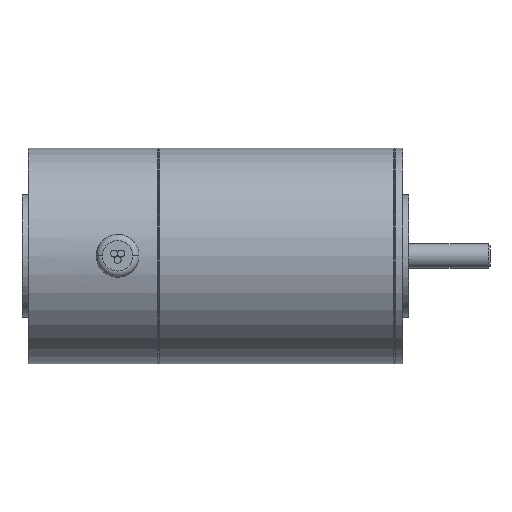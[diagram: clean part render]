
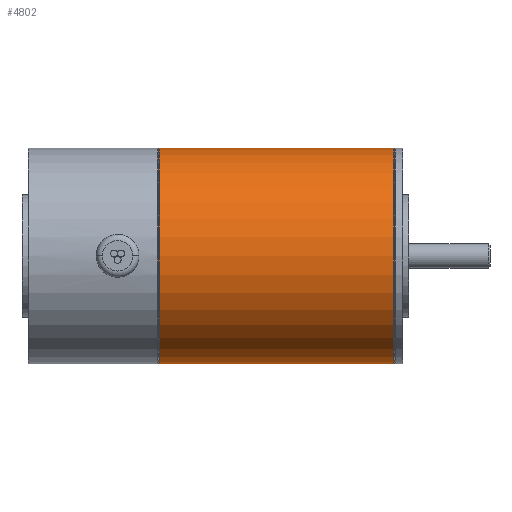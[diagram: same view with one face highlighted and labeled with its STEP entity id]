
A CAD part, top view. The second image highlights one B-rep face of the part: STEP entity #4802.
In plain terms, the highlighted cylindrical face has radius 26.5 mm (diameter 53 mm), a partial arc.
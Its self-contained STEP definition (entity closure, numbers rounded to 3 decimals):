
#4766 = VERTEX_POINT ( 'NONE', #5212 ) ;
#4798 = EDGE_CURVE ( 'NONE', #4766, #4799, #5261, .T. ) ;
#4799 = VERTEX_POINT ( 'NONE', #5256 ) ;
#4802 = ADVANCED_FACE ( 'NONE', ( #5186 ), #5244, .T. ) ;
#4803 = EDGE_LOOP ( 'NONE', ( #4804, #4808, #4816, #4817 ) ) ;
#4804 = ORIENTED_EDGE ( 'NONE', *, *, #4805, .T. ) ;
#4805 = EDGE_CURVE ( 'NONE', #4806, #4807, #5340, .T. ) ;
#4806 = VERTEX_POINT ( 'NONE', #5336 ) ;
#4807 = VERTEX_POINT ( 'NONE', #5335 ) ;
#4808 = ORIENTED_EDGE ( 'NONE', *, *, #4815, .T. ) ;
#4815 = EDGE_CURVE ( 'NONE', #4807, #4799, #5359, .T. ) ;
#4816 = ORIENTED_EDGE ( 'NONE', *, *, #4798, .F. ) ;
#4817 = ORIENTED_EDGE ( 'NONE', *, *, #4818, .F. ) ;
#4818 = EDGE_CURVE ( 'NONE', #4806, #4766, #5354, .T. ) ;
#5186 = FACE_OUTER_BOUND ( 'NONE', #4803, .T. ) ;
#5212 = CARTESIAN_POINT ( 'NONE',  ( -59.8, -26.5, 0. ) ) ;
#5241 = DIRECTION ( 'NONE',  ( 0., -1., 0. ) ) ;
#5242 = DIRECTION ( 'NONE',  ( -1., 0., 0. ) ) ;
#5243 = AXIS2_PLACEMENT_3D ( 'NONE', #5245, #5242, #5241 ) ;
#5244 = CYLINDRICAL_SURFACE ( 'NONE', #5243, 26.5 ) ;
#5245 = CARTESIAN_POINT ( 'NONE',  ( -93.5, 0., 0. ) ) ;
#5256 = CARTESIAN_POINT ( 'NONE',  ( -59.8, 26.5, 0. ) ) ;
#5257 = DIRECTION ( 'NONE',  ( 0., -1., 0. ) ) ;
#5258 = DIRECTION ( 'NONE',  ( -1., 0., 0. ) ) ;
#5259 = CARTESIAN_POINT ( 'NONE',  ( -59.8, 0., 0. ) ) ;
#5260 = AXIS2_PLACEMENT_3D ( 'NONE', #5259, #5258, #5257 ) ;
#5261 = CIRCLE ( 'NONE', #5260, 26.5 ) ;
#5335 = CARTESIAN_POINT ( 'NONE',  ( -2.2, 26.5, 0. ) ) ;
#5336 = CARTESIAN_POINT ( 'NONE',  ( -2.2, -26.5, 0. ) ) ;
#5337 = DIRECTION ( 'NONE',  ( 0., -1., 0. ) ) ;
#5338 = DIRECTION ( 'NONE',  ( -1., 0., 0. ) ) ;
#5339 = AXIS2_PLACEMENT_3D ( 'NONE', #5434, #5338, #5337 ) ;
#5340 = CIRCLE ( 'NONE', #5339, 26.5 ) ;
#5351 = DIRECTION ( 'NONE',  ( -1., 0., 0. ) ) ;
#5352 = VECTOR ( 'NONE', #5351, 1000. ) ;
#5353 = CARTESIAN_POINT ( 'NONE',  ( -93.5, -26.5, 0. ) ) ;
#5354 = LINE ( 'NONE', #5353, #5352 ) ;
#5356 = DIRECTION ( 'NONE',  ( -1., 0., 0. ) ) ;
#5357 = VECTOR ( 'NONE', #5356, 1000. ) ;
#5358 = CARTESIAN_POINT ( 'NONE',  ( -93.5, 26.5, 0. ) ) ;
#5359 = LINE ( 'NONE', #5358, #5357 ) ;
#5434 = CARTESIAN_POINT ( 'NONE',  ( -2.2, 0., 0. ) ) ;
